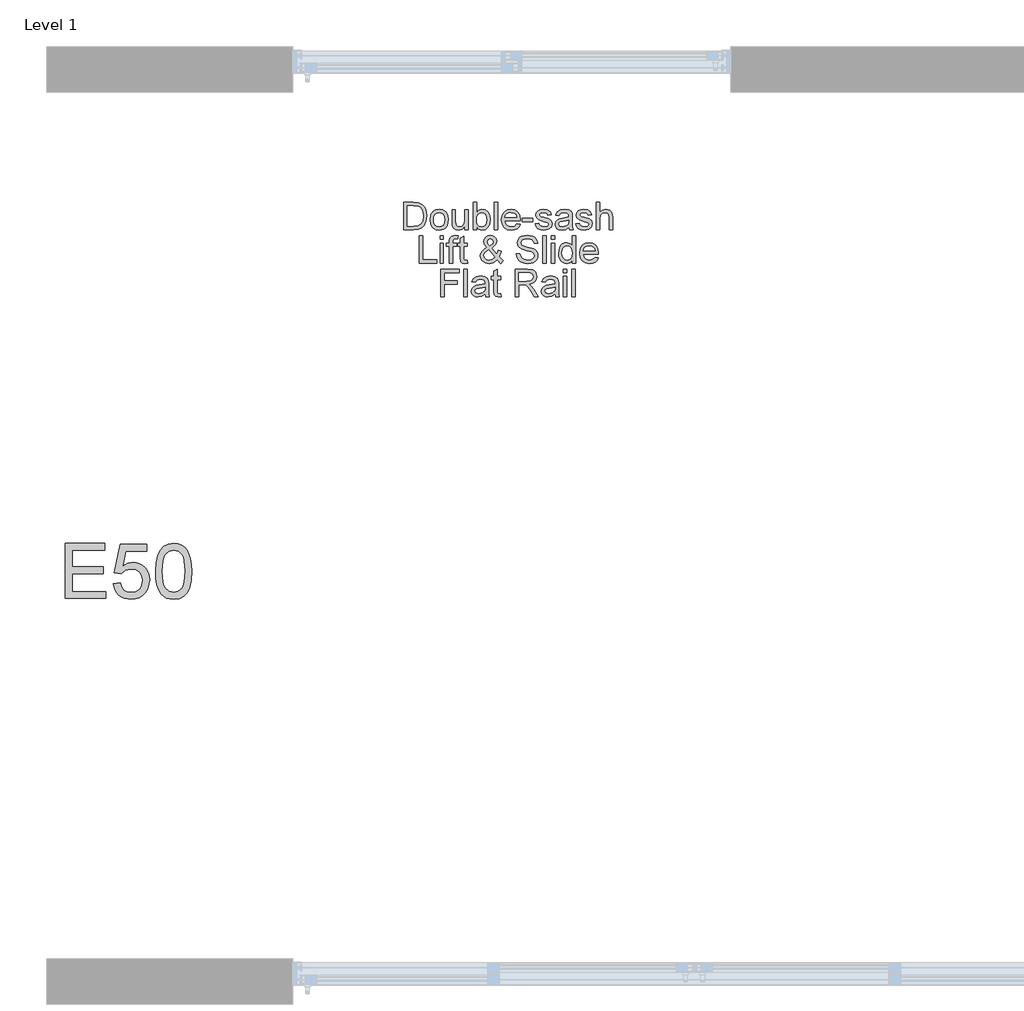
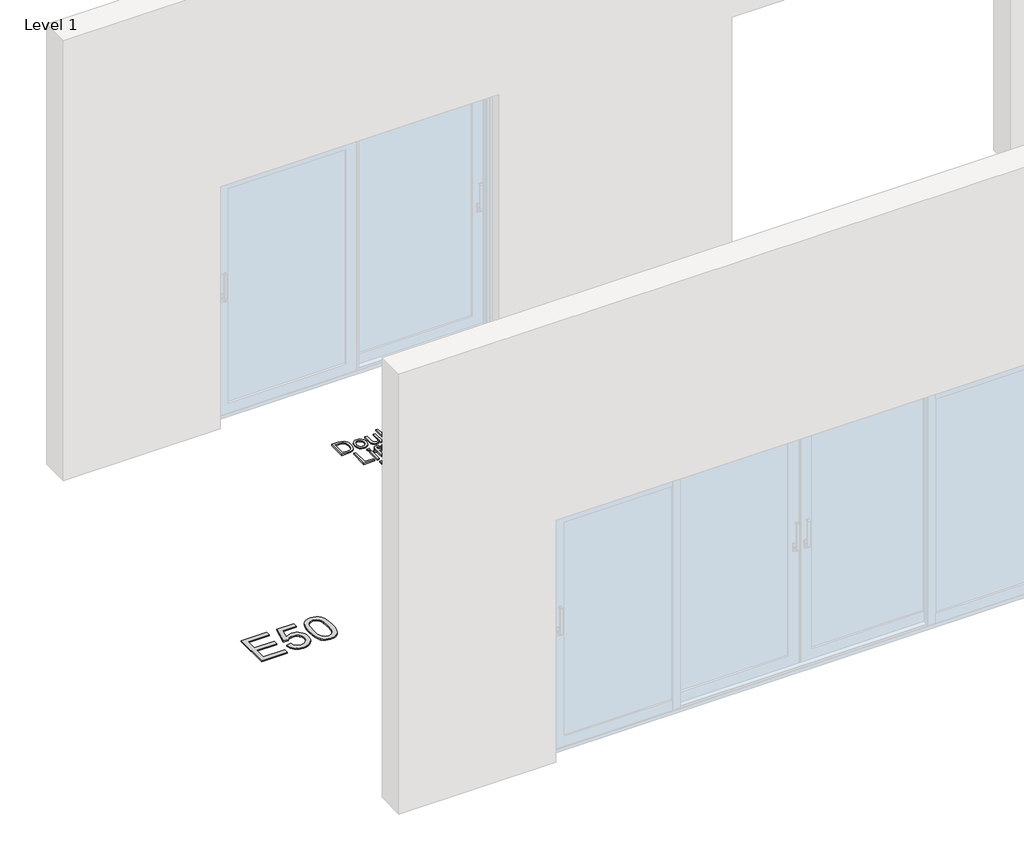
# One storey, part 3 of 11: 2 proxies.
"""IFC4 building model written with IfcOpenShell, lengths in millimetres."""

from ifc_helpers import new_model, si_unit, origin, origin_with_axes, place, context, project, spatial, polyline, outline, extrude, element, save

model = new_model("IFC4")

# Units and contexts
model_context = context("Model", 3, world=origin())
ifc_project = project(units=[si_unit("LENGTHUNIT", "METRE", prefix="MILLI")], contexts=[model_context])

# Site, building, storey
site = spatial("IfcSite", under=ifc_project)
building = spatial("IfcBuilding", under=site)
storey = spatial("IfcBuildingStorey", under=building, Name="Level 1", Elevation=0.0)

# Proxies
placement = place(None, origin())
element("IfcBuildingElementProxy", 1, Name="150mm Arial", ObjectType="150mm Arial", at=placement, inside=storey, context=model_context, shape_type="SweptSolid", body=[
    extrude(outline(polyline([(-6211.5990485, -897.6627533), (-6211.5990485, -746.9782881), (-6159.6173226, -746.9782881), (-6132.7251487, -749.1487919), (-6110.5786526, -759.9277343), (-6100.1583951, -771.4056526), (-6092.7363758, -785.679474), (-6088.2942007, -802.4732871), (-6086.8134757, -821.5111803), (-6090.8233895, -851.9166272), (-6101.1240853, -873.8607883), (-6114.8828719, -887.5276044), (-6132.8906956, -895.0875794), (-6157.115725, -897.6627533), (-6211.5990485, -897.6627533)]), holes=[polyline([(-6192.7634903, -878.8271952), (-6159.4333816, -878.8271952), (-6135.1899581, -876.1048684), (-6121.2104423, -868.4161347), (-6109.7509181, -849.7093353), (-6105.6490339, -821.2168747), (-6107.6585893, -800.6890594), (-6113.6872555, -785.5323212), (-6122.5945983, -775.1212607), (-6133.2401835, -768.8304786), (-6159.9484164, -765.8138463), (-6192.7634903, -765.8138463), (-6192.7634903, -878.8271952)])]), origin_with_axes(), (0.0, 0.0, 1.0), 10.0),
    extrude(outline(polyline([(-6067.9779176, -842.3333013), (-6063.9036245, -815.6526596), (-6051.6807452, -796.8998749), (-6036.5791893, -787.712022), (-6018.4977892, -784.6494044), (-5998.7103364, -788.3788081), (-5982.9052062, -799.5670193), (-5972.5447295, -817.3311212), (-5969.0912373, -840.7881969), (-5970.6179475, -859.8168931), (-5975.1980784, -874.3022466), (-5982.6982726, -885.150167), (-5992.9851728, -893.2665635), (-6005.2034536, -898.3295395), (-6018.4977892, -900.0171981), (-6038.5243653, -896.30159), (-6054.3111014, -885.1547655), (-6064.5612135, -867.0181831), (-6067.9779176, -842.3333013)]), holes=[polyline([(-6049.1423594, -842.2965131), (-6046.9626586, -859.343245), (-6040.4235561, -871.4879494), (-6030.5827127, -878.7582173), (-6018.4977892, -881.18164), (-6006.468048, -878.7444217), (-5996.6455987, -871.4327671), (-5990.1064962, -859.1271143), (-5987.9267954, -841.7079019), (-5990.1202918, -825.1578106), (-5996.700781, -813.1786531), (-6006.5370258, -805.9083852), (-6018.4977892, -803.4849626), (-6030.5827127, -805.8991882), (-6040.4235561, -813.141865), (-6046.9626586, -825.2589782), (-6049.1423594, -842.2965131)])]), origin_with_axes(), (0.0, 0.0, 1.0), 10.0),
    extrude(outline(polyline([(-5877.2678913, -897.6627533), (-5877.2678913, -878.6432542), (-5892.0199593, -894.6737121), (-5911.2601876, -900.0171981), (-5928.9737057, -896.2648018), (-5941.1873879, -886.8470227), (-5946.7975883, -872.9778715), (-5947.9012343, -855.4666885), (-5947.9012343, -787.0038492), (-5929.0656762, -787.0038492), (-5929.0656762, -846.6007324), (-5927.925242, -865.8041726), (-5920.4756316, -877.0797557), (-5906.4409335, -881.18164), (-5890.7139782, -876.9877852), (-5880.3213118, -865.5650493), (-5877.2678913, -844.5773814), (-5877.2678913, -787.0038492), (-5858.4323331, -787.0038492), (-5858.4323331, -897.6627533), (-5877.2678913, -897.6627533)])), origin_with_axes(), (0.0, 0.0, 1.0), 10.0),
    extrude(outline(polyline([(-5813.6978825, -897.6627533), (-5832.5334406, -897.6627533), (-5832.5334406, -746.9782881), (-5813.6978825, -746.9782881), (-5813.6978825, -802.8595632), (-5800.509313, -789.2019441), (-5784.1201701, -784.6494044), (-5765.2478237, -788.7512887), (-5750.6061203, -800.2843892), (-5741.6114055, -818.2186365), (-5738.3556499, -840.6778323), (-5741.7263687, -865.8225667), (-5751.838525, -884.5293661), (-5766.677965, -896.1452401), (-5784.2305347, -900.0171981), (-5800.9783625, -895.0232), (-5813.6978825, -880.0412058), (-5813.6978825, -897.6627533)]), holes=[polyline([(-5813.6978825, -841.5607491), (-5812.4102955, -857.2693103), (-5808.5475346, -867.9010999), (-5798.6791, -877.861505), (-5785.8492155, -881.18164), (-5774.9783025, -878.7352247), (-5765.6892821, -871.3959789), (-5759.3157266, -859.2098878), (-5757.191208, -842.2229367), (-5759.2283546, -824.9876652), (-5765.3397942, -812.9395299), (-5774.3391075, -805.8486044), (-5785.0398751, -803.4849626), (-5795.910788, -805.9313778), (-5805.1998084, -813.2706236), (-5811.573364, -825.2359855), (-5813.6978825, -841.5607491)])]), origin_with_axes(), (0.0, 0.0, 1.0), 10.0),
    extrude(outline(polyline([(-5717.165647, -897.6627533), (-5717.165647, -746.9782881), (-5698.3300888, -746.9782881), (-5698.3300888, -897.6627533), (-5717.165647, -897.6627533)])), origin_with_axes(), (0.0, 0.0, 1.0), 10.0),
    extrude(outline(polyline([(-5592.6008034, -864.7005266), (-5574.1331272, -867.0549713), (-5580.7871928, -880.9701078), (-5591.4051869, -891.3719712), (-5605.7479862, -897.8558914), (-5623.5764674, -900.0171981), (-5645.6769782, -896.2877944), (-5662.6823235, -885.0995832), (-5673.5256453, -867.1791315), (-5677.1400859, -843.2530063), (-5673.4888571, -818.5221391), (-5662.5351707, -800.0268718), (-5645.7597517, -788.4937713), (-5624.6433252, -784.6494044), (-5604.1844877, -788.4845742), (-5587.8367316, -799.9900836), (-5577.1175699, -818.4485627), (-5573.544516, -843.1426417), (-5573.6548806, -848.2194132), (-5658.3045277, -848.2194132), (-5655.0441735, -862.3184907), (-5647.470403, -872.6835659), (-5636.5397092, -879.0571214), (-5623.2085854, -881.18164), (-5604.7409092, -877.2453026), (-5592.6008034, -864.7005266)]), holes=[polyline([(-5658.3045277, -829.383855), (-5592.3800742, -829.383855), (-5594.927657, -819.4326471), (-5599.9216551, -812.3141305), (-5610.9029326, -805.6922545), (-5624.7169016, -803.4849626), (-5637.4134289, -805.2461976), (-5647.9118614, -810.5299028), (-5655.2097204, -818.765861), (-5658.3045277, -829.383855)])]), origin_with_axes(), (0.0, 0.0, 1.0), 10.0),
    extrude(outline(polyline([(-5564.126737, -852.9283027), (-5564.126737, -834.0927446), (-5505.2656177, -834.0927446), (-5505.2656177, -852.9283027), (-5564.126737, -852.9283027)])), origin_with_axes(), (0.0, 0.0, 1.0), 10.0),
    extrude(outline(polyline([(-5491.1389491, -864.7005266), (-5472.303391, -862.3460818), (-5469.3327439, -870.4026975), (-5463.5845877, -876.3255976), (-5443.6085953, -881.18164), (-5424.4051552, -876.7302678), (-5418.1511613, -866.2824192), (-5419.7238568, -861.4815591), (-5424.4419434, -857.8211333), (-5443.8293245, -852.4500561), (-5472.1930264, -843.2346122), (-5484.5722555, -832.4740638), (-5488.7845044, -817.2805374), (-5485.39999, -803.2458393), (-5476.1661519, -792.5220791), (-5464.191593, -786.9486669), (-5447.9863911, -784.6494044), (-5425.0673428, -788.3466185), (-5410.4992158, -798.3530087), (-5404.0244927, -815.2571864), (-5422.8600508, -817.6116312), (-5429.9417792, -807.2189648), (-5446.5148631, -803.4849626), (-5464.5410809, -807.0534179), (-5469.9489462, -815.367551), (-5467.704866, -820.8489927), (-5460.6783199, -825.0060593), (-5444.4547239, -829.015973), (-5416.808392, -837.8819291), (-5403.9693104, -847.9251076), (-5399.3156031, -864.2958564), (-5404.7786508, -882.3220741), (-5420.5423942, -895.4002791), (-5443.8661127, -900.0171981), (-5462.8580207, -897.791512), (-5476.7179749, -891.1144538), (-5485.9702071, -880.0595999), (-5491.1389491, -864.7005266)])), origin_with_axes(), (0.0, 0.0, 1.0), 10.0),
    extrude(outline(polyline([(-5307.4922571, -883.5360847), (-5325.7575982, -896.30159), (-5345.9359256, -900.0171981), (-5361.6766765, -897.782315), (-5373.287952, -891.0776656), (-5380.4478553, -880.8965314), (-5382.8344897, -868.2321937), (-5379.2292462, -853.3329729), (-5369.7562848, -842.5172423), (-5356.5677153, -836.3368247), (-5340.2705429, -833.5041334), (-5307.6026217, -827.0294103), (-5307.4922571, -822.8355555), (-5308.7890412, -814.4294519), (-5312.6793933, -808.9296161), (-5321.3798024, -804.846126), (-5333.5015142, -803.4849626), (-5352.5578015, -807.1086002), (-5361.6444868, -819.966076), (-5380.480045, -817.6116312), (-5372.3314588, -799.2175314), (-5355.9239218, -788.438589), (-5331.073493, -784.6494044), (-5308.2464152, -787.9971306), (-5295.3521513, -796.4032342), (-5289.576404, -809.1871335), (-5288.656699, -825.6682469), (-5288.656699, -849.10233), (-5287.7002058, -881.8254334), (-5283.9478094, -897.6627533), (-5302.7833676, -897.6627533), (-5307.4922571, -883.5360847)]), holes=[polyline([(-5307.4922571, -845.8649684), (-5337.8793099, -851.6407157), (-5354.0845118, -854.6941363), (-5361.4237576, -859.6605432), (-5363.9989316, -866.9078185), (-5358.3887312, -877.0981498), (-5341.9260119, -881.18164), (-5322.8697245, -876.6750855), (-5310.5824659, -865.7673844), (-5307.6026217, -851.1992574), (-5307.4922571, -845.8649684)])]), origin_with_axes(), (0.0, 0.0, 1.0), 10.0),
    extrude(outline(polyline([(-5269.8211408, -864.7005266), (-5250.9855827, -862.3460818), (-5248.0149356, -870.4026975), (-5242.2667794, -876.3255976), (-5222.290787, -881.18164), (-5203.0873469, -876.7302678), (-5196.833353, -866.2824192), (-5198.4060485, -861.4815591), (-5203.1241351, -857.8211333), (-5222.5115162, -852.4500561), (-5250.8752181, -843.2346122), (-5263.2544472, -832.4740638), (-5267.4666961, -817.2805374), (-5264.0821817, -803.2458393), (-5254.8483436, -792.5220791), (-5242.8737847, -786.9486669), (-5226.6685828, -784.6494044), (-5203.7495345, -788.3466185), (-5189.1814075, -798.3530087), (-5182.7066844, -815.2571864), (-5201.5422425, -817.6116312), (-5208.6239709, -807.2189648), (-5225.1970548, -803.4849626), (-5243.2232726, -807.0534179), (-5248.6311379, -815.367551), (-5246.3870577, -820.8489927), (-5239.3605116, -825.0060593), (-5223.1369156, -829.015973), (-5195.4905837, -837.8819291), (-5182.6515021, -847.9251076), (-5177.9977948, -864.2958564), (-5183.4608425, -882.3220741), (-5199.2245859, -895.4002791), (-5222.5483044, -900.0171981), (-5241.5402124, -897.791512), (-5255.4001666, -891.1144538), (-5264.6523988, -880.0595999), (-5269.8211408, -864.7005266)])), origin_with_axes(), (0.0, 0.0, 1.0), 10.0),
    extrude(outline(polyline([(-5156.8077919, -897.6627533), (-5156.8077919, -746.9782881), (-5137.9722338, -746.9782881), (-5137.9722338, -802.3813166), (-5123.2845451, -789.0823825), (-5105.193948, -784.6494044), (-5084.0407333, -789.4870527), (-5071.2016516, -802.8595632), (-5067.3388907, -827.6180215), (-5067.3388907, -897.6627533), (-5086.1744488, -897.6627533), (-5086.1744488, -829.567796), (-5087.673568, -817.7771781), (-5092.1709254, -809.7021683), (-5099.4182007, -805.039264), (-5109.1670735, -803.4849626), (-5124.5997232, -807.6788173), (-5134.9004191, -819.046371), (-5137.9722338, -838.8752105), (-5137.9722338, -897.6627533), (-5156.8077919, -897.6627533)])), origin_with_axes(), (0.0, 0.0, 1.0), 10.0),
    extrude(outline(polyline([(-6126.8390368, -1080.6249801), (-6126.8390368, -929.9405149), (-6108.0034786, -929.9405149), (-6108.0034786, -1061.789422), (-6032.661246, -1061.789422), (-6032.661246, -1080.6249801), (-6126.8390368, -1080.6249801)])), origin_with_axes(), (0.0, 0.0, 1.0), 10.0),
    extrude(outline(polyline([(-6013.8256879, -948.776073), (-6013.8256879, -929.9405149), (-5994.9901297, -929.9405149), (-5994.9901297, -948.776073), (-6013.8256879, -948.776073)])), origin_with_axes(), (0.0, 0.0, 1.0), 10.0),
    extrude(outline(polyline([(-6013.8256879, -1080.6249801), (-6013.8256879, -969.966076), (-5994.9901297, -969.966076), (-5994.9901297, -1080.6249801), (-6013.8256879, -1080.6249801)])), origin_with_axes(), (0.0, 0.0, 1.0), 10.0),
    extrude(outline(polyline([(-5962.0279029, -1080.6249801), (-5962.0279029, -988.8016341), (-5978.5090163, -988.8016341), (-5978.5090163, -969.966076), (-5962.0279029, -969.966076), (-5962.0279029, -958.8192515), (-5960.0413402, -943.1106903), (-5950.4028319, -931.8902895), (-5931.4201209, -927.5860701), (-5914.2400318, -929.6462093), (-5916.9991467, -947.3045451), (-5927.8516656, -946.4216283), (-5939.7158599, -949.5486252), (-5943.1923448, -961.2104845), (-5943.1923448, -969.966076), (-5922.0023419, -969.966076), (-5922.0023419, -988.8016341), (-5943.1923448, -988.8016341), (-5943.1923448, -1080.6249801), (-5962.0279029, -1080.6249801)])), origin_with_axes(), (0.0, 0.0, 1.0), 10.0),
    extrude(outline(polyline([(-5865.4956674, -1064.9164189), (-5863.1412226, -1081.1768031), (-5877.2311031, -1082.9794249), (-5893.0132407, -1079.8524279), (-5900.8859153, -1071.6486594), (-5903.1667837, -1050.2747155), (-5903.1667837, -988.8016341), (-5917.2934523, -988.8016341), (-5917.2934523, -969.966076), (-5903.1667837, -969.966076), (-5903.1667837, -943.0739021), (-5884.3312256, -932.0006541), (-5884.3312256, -969.966076), (-5865.4956674, -969.966076), (-5865.4956674, -988.8016341), (-5884.3312256, -988.8016341), (-5884.3312256, -1049.7228925), (-5883.3379442, -1059.4349772), (-5880.1189767, -1062.8746738), (-5873.6994359, -1064.1438667), (-5865.4956674, -1064.9164189)])), origin_with_axes(), (0.0, 0.0, 1.0), 10.0),
    extrude(outline(polyline([(-5701.3835094, -1062.0101512), (-5721.3595017, -1077.7371064), (-5744.7200084, -1082.9794249), (-5765.5053411, -1079.0982698), (-5781.5082079, -1067.4548047), (-5789.7579617, -1054.054703), (-5792.5078796, -1039.1646793), (-5790.2959891, -1025.9669127), (-5783.6603176, -1014.1119154), (-5772.6284563, -1003.6088844), (-5757.2279962, -994.4670168), (-5770.3797776, -975.4107295), (-5773.6723214, -961.2840609), (-5771.0787533, -948.5645409), (-5763.2980492, -937.6292486), (-5751.5902047, -930.0968647), (-5737.2152157, -927.5860701), (-5723.5392025, -929.9865001), (-5712.6039102, -937.1877902), (-5705.4302113, -947.7552005), (-5703.0389783, -960.2539913), (-5704.8094104, -970.7478252), (-5710.1207067, -980.4507128), (-5731.365892, -997.4836492), (-5704.1058361, -1031.4391574), (-5695.975644, -1010.5802482), (-5677.1400859, -1014.6637384), (-5690.4574141, -1045.6761906), (-5667.7223068, -1068.4848743), (-5681.8489754, -1082.9794249), (-5701.3835094, -1062.0101512)]), holes=[polyline([(-5740.8940356, -985.6010608), (-5725.4062036, -973.9208074), (-5721.8745365, -962.8291653), (-5726.5282437, -951.0017591), (-5738.1717089, -946.4216283), (-5750.0726914, -950.9649709), (-5754.8367633, -962.0566131), (-5753.2180825, -968.9544005), (-5748.3252519, -976.6247401), (-5740.8940356, -985.6010608)]), polyline([(-5714.0018618, -1048.4353055), (-5747.6262762, -1006.4599699), (-5768.3196384, -1022.2421075), (-5773.6723214, -1036.6630817), (-5771.8421085, -1045.5474319), (-5766.3514697, -1054.7628758), (-5757.5039077, -1061.798619), (-5745.6029252, -1064.1438667), (-5728.2940773, -1059.766071), (-5714.0018618, -1048.4353055)])]), origin_with_axes(), (0.0, 0.0, 1.0), 10.0),
    extrude(outline(polyline([(-5594.734519, -1028.8271952), (-5575.8989608, -1028.8271952), (-5569.8289079, -1047.6811474), (-5555.0032635, -1059.6005241), (-5532.415309, -1064.1438667), (-5512.7336222, -1060.7041701), (-5500.0232993, -1051.2496028), (-5495.8478387, -1038.6128563), (-5498.9748356, -1026.8590265), (-5511.777129, -1018.3057701), (-5539.2027318, -1011.1136771), (-5568.7252619, -1001.8246567), (-5584.7465228, -987.8083527), (-5590.0256294, -969.0831592), (-5588.3931531, -958.0512978), (-5583.495724, -947.7643976), (-5575.4621009, -939.0455943), (-5564.4210426, -932.7180239), (-5536.4987991, -927.5860701), (-5506.7003575, -932.9571472), (-5495.2776216, -939.5882202), (-5486.8347298, -948.7392848), (-5481.4912438, -959.840124), (-5479.3667253, -972.3205207), (-5498.2022834, -972.3205207), (-5501.6603742, -961.0817258), (-5508.8708613, -952.9699278), (-5520.1372474, -948.0587031), (-5535.7630351, -946.4216283), (-5551.7567049, -948.040309), (-5562.7287854, -952.8963514), (-5569.0747498, -960.0424591), (-5571.1900713, -968.5313362), (-5569.6909521, -975.7694144), (-5565.1935947, -981.591147), (-5534.43866, -992.1125721), (-5501.1085512, -1001.5671393), (-5490.3709955, -1008.4005474), (-5482.8799983, -1016.8342421), (-5478.47921, -1026.7762531), (-5477.0122805, -1038.1346097), (-5478.6999392, -1049.7458851), (-5483.7629151, -1060.6673819), (-5491.9942748, -1070.0667668), (-5503.1870845, -1077.1117071), (-5516.646967, -1081.5124954), (-5531.679545, -1082.9794249), (-5550.1334256, -1081.3975323), (-5565.3223534, -1076.6518546), (-5577.4210726, -1068.7239976), (-5586.6043269, -1057.5955672), (-5592.4996358, -1044.0391157), (-5594.734519, -1028.8271952)])), origin_with_axes(), (0.0, 0.0, 1.0), 10.0),
    extrude(outline(polyline([(-5451.113388, -1080.6249801), (-5451.113388, -929.9405149), (-5432.2778299, -929.9405149), (-5432.2778299, -1080.6249801), (-5451.113388, -1080.6249801)])), origin_with_axes(), (0.0, 0.0, 1.0), 10.0),
    extrude(outline(polyline([(-5404.0244927, -948.776073), (-5404.0244927, -929.9405149), (-5385.1889345, -929.9405149), (-5385.1889345, -948.776073), (-5404.0244927, -948.776073)])), origin_with_axes(), (0.0, 0.0, 1.0), 10.0),
    extrude(outline(polyline([(-5404.0244927, -1080.6249801), (-5404.0244927, -969.966076), (-5385.1889345, -969.966076), (-5385.1889345, -1080.6249801), (-5404.0244927, -1080.6249801)])), origin_with_axes(), (0.0, 0.0, 1.0), 10.0),
    extrude(outline(polyline([(-5288.656699, -1080.6249801), (-5288.656699, -1062.8562797), (-5301.1187016, -1077.9486386), (-5318.344776, -1082.9794249), (-5330.52167, -1081.158409), (-5341.6684945, -1075.6953614), (-5351.1046677, -1066.9719596), (-5358.1496079, -1055.3698811), (-5362.5366007, -1041.3581756), (-5363.9989316, -1025.4058926), (-5358.6094604, -995.42351), (-5351.8772198, -983.5317245), (-5342.4594408, -974.7853301), (-5331.0688945, -969.4050559), (-5318.4183524, -967.6116312), (-5301.0543222, -972.743585), (-5288.656699, -986.0793073), (-5288.656699, -929.9405149), (-5269.8211408, -929.9405149), (-5269.8211408, -1080.6249801), (-5288.656699, -1080.6249801)]), holes=[polyline([(-5345.1633734, -1025.3323162), (-5343.0388549, -1042.3698511), (-5336.6652993, -1054.4869644), (-5327.4038701, -1061.7296411), (-5316.6157306, -1064.1438667), (-5305.8321896, -1061.8400057), (-5296.8052852, -1054.9284227), (-5290.6938455, -1043.2803591), (-5288.656699, -1026.767056), (-5290.7306337, -1008.7132471), (-5296.952438, -996.1960622), (-5306.2092687, -988.8844076), (-5317.3882828, -986.4471893), (-5328.2867869, -988.7878385), (-5337.2171223, -995.8097861), (-5343.1768107, -1007.871717), (-5345.1633734, -1025.3323162)])]), origin_with_axes(), (0.0, 0.0, 1.0), 10.0),
    extrude(outline(polyline([(-5164.0918554, -1047.6627533), (-5145.6241792, -1050.0171981), (-5152.2782448, -1063.9323346), (-5162.8962389, -1074.334198), (-5177.2390382, -1080.8181182), (-5195.0675194, -1082.9794249), (-5217.1680303, -1079.2500212), (-5234.1733755, -1068.06181), (-5245.0166973, -1050.1413583), (-5248.6311379, -1026.215233), (-5244.9799091, -1001.4843659), (-5234.0262227, -982.9890986), (-5217.2508037, -971.455998), (-5196.1343772, -967.6116312), (-5175.6755397, -971.446801), (-5159.3277836, -982.9523104), (-5148.6086219, -1001.4107895), (-5145.0355681, -1026.1048684), (-5145.1459327, -1031.18164), (-5229.7955797, -1031.18164), (-5226.5352256, -1045.2807174), (-5218.961455, -1055.6457926), (-5208.0307612, -1062.0193482), (-5194.6996374, -1064.1438667), (-5176.2319612, -1060.2075294), (-5164.0918554, -1047.6627533)]), holes=[polyline([(-5229.7955797, -1012.3460818), (-5163.8711262, -1012.3460818), (-5166.418709, -1002.3948738), (-5171.4127071, -995.2763572), (-5182.3939847, -988.6544813), (-5196.2079536, -986.4471893), (-5208.9044809, -988.2084244), (-5219.4029134, -993.4921296), (-5226.7007725, -1001.7280877), (-5229.7955797, -1012.3460818)])]), origin_with_axes(), (0.0, 0.0, 1.0), 10.0),
    extrude(outline(polyline([(-6009.1167983, -1263.5872069), (-6009.1167983, -1112.9027417), (-5907.8756733, -1112.9027417), (-5907.8756733, -1131.7382998), (-5990.2812402, -1131.7382998), (-5990.2812402, -1176.4727504), (-5919.6478971, -1176.4727504), (-5919.6478971, -1195.3083086), (-5990.2812402, -1195.3083086), (-5990.2812402, -1263.5872069), (-6009.1167983, -1263.5872069)])), origin_with_axes(), (0.0, 0.0, 1.0), 10.0),
    extrude(outline(polyline([(-5884.3312256, -1263.5872069), (-5884.3312256, -1112.9027417), (-5865.4956674, -1112.9027417), (-5865.4956674, -1263.5872069), (-5884.3312256, -1263.5872069)])), origin_with_axes(), (0.0, 0.0, 1.0), 10.0),
    extrude(outline(polyline([(-5766.6089871, -1249.4605383), (-5784.8743282, -1262.2260435), (-5805.0526556, -1265.9416516), (-5820.7934065, -1263.7067685), (-5832.4046819, -1257.0021192), (-5839.5645853, -1246.8209849), (-5841.9512197, -1234.1566473), (-5838.3459762, -1219.2574265), (-5828.8730148, -1208.4416958), (-5815.6844453, -1202.2612783), (-5799.3872729, -1199.4285869), (-5766.7193517, -1192.9538638), (-5766.6089871, -1188.7600091), (-5767.9057711, -1180.3539055), (-5771.7961232, -1174.8540696), (-5780.4965324, -1170.7705795), (-5792.6182442, -1169.4094161), (-5811.6745315, -1173.0330538), (-5820.7612168, -1185.8905295), (-5839.596775, -1183.5360847), (-5831.4481888, -1165.141985), (-5815.0406518, -1154.3630425), (-5790.190223, -1150.573858), (-5767.3631452, -1153.9215841), (-5754.4688813, -1162.3276877), (-5748.6931339, -1175.111587), (-5747.773429, -1191.5927004), (-5747.773429, -1215.0267835), (-5746.8169358, -1247.749887), (-5743.0645394, -1263.5872069), (-5761.9000976, -1263.5872069), (-5766.6089871, -1249.4605383)]), holes=[polyline([(-5766.6089871, -1211.789422), (-5796.9960399, -1217.5651693), (-5813.2012418, -1220.6185898), (-5820.5404876, -1225.5849968), (-5823.1156616, -1232.8322721), (-5817.5054611, -1243.0226033), (-5801.0427419, -1247.1060935), (-5781.9864545, -1242.5995391), (-5769.6991959, -1231.6918379), (-5766.7193517, -1217.1237109), (-5766.6089871, -1211.789422)])]), origin_with_axes(), (0.0, 0.0, 1.0), 10.0),
    extrude(outline(polyline([(-5681.8489754, -1247.8786457), (-5679.4945307, -1264.1390299), (-5693.5844111, -1265.9416516), (-5709.3665487, -1262.8146547), (-5717.2392234, -1254.6108862), (-5719.5200917, -1233.2369423), (-5719.5200917, -1171.7638609), (-5733.6467603, -1171.7638609), (-5733.6467603, -1152.9283027), (-5719.5200917, -1152.9283027), (-5719.5200917, -1126.0361289), (-5700.6845336, -1114.9628808), (-5700.6845336, -1152.9283027), (-5681.8489754, -1152.9283027), (-5681.8489754, -1171.7638609), (-5700.6845336, -1171.7638609), (-5700.6845336, -1232.6851193), (-5699.6912522, -1242.397204), (-5696.4722847, -1245.8369006), (-5690.0527439, -1247.1060935), (-5681.8489754, -1247.8786457)])), origin_with_axes(), (0.0, 0.0, 1.0), 10.0),
    extrude(outline(polyline([(-5601.7978533, -1263.5872069), (-5601.7978533, -1112.9027417), (-5536.8666811, -1112.9027417), (-5506.7187516, -1116.9678377), (-5497.4389283, -1122.5964322), (-5490.2376382, -1131.3520237), (-5485.6161207, -1142.2091411), (-5484.0756148, -1154.1423133), (-5486.6277962, -1168.9863518), (-5494.2843402, -1181.2920046), (-5507.2751731, -1190.3143105), (-5525.8302213, -1195.3083086), (-5515.1248552, -1203.3649243), (-5499.8577524, -1222.7523054), (-5474.7314121, -1263.5872069), (-5496.6203908, -1263.5872069), (-5516.2285012, -1232.3540255), (-5530.391958, -1211.6790574), (-5540.343166, -1201.9117904), (-5549.3010926, -1198.3249409), (-5560.2271878, -1197.6627533), (-5582.9622951, -1197.6627533), (-5582.9622951, -1263.5872069), (-5601.7978533, -1263.5872069)]), holes=[polyline([(-5582.9622951, -1178.8271952), (-5540.8030185, -1178.8271952), (-5519.3003159, -1176.1600507), (-5507.0866336, -1167.6251884), (-5502.911173, -1154.8412891), (-5504.9023343, -1145.6534363), (-5510.8758182, -1138.2498111), (-5521.1535214, -1133.3661776), (-5536.0573407, -1131.7382998), (-5582.9622951, -1131.7382998), (-5582.9622951, -1178.8271952)])]), origin_with_axes(), (0.0, 0.0, 1.0), 10.0),
    extrude(outline(polyline([(-5382.8344897, -1249.4605383), (-5401.0998308, -1262.2260435), (-5421.2781582, -1265.9416516), (-5437.0189091, -1263.7067685), (-5448.6301846, -1257.0021192), (-5455.7900879, -1246.8209849), (-5458.1767224, -1234.1566473), (-5454.5714788, -1219.2574265), (-5445.0985174, -1208.4416958), (-5431.9099479, -1202.2612783), (-5415.6127755, -1199.4285869), (-5382.9448543, -1192.9538638), (-5382.8344897, -1188.7600091), (-5384.1312738, -1180.3539055), (-5388.0216259, -1174.8540696), (-5396.7220351, -1170.7705795), (-5408.8437468, -1169.4094161), (-5427.9000341, -1173.0330538), (-5436.9867194, -1185.8905295), (-5455.8222776, -1183.5360847), (-5447.6736914, -1165.141985), (-5431.2661544, -1154.3630425), (-5406.4157256, -1150.573858), (-5383.5886478, -1153.9215841), (-5370.6943839, -1162.3276877), (-5364.9186366, -1175.111587), (-5363.9989316, -1191.5927004), (-5363.9989316, -1215.0267835), (-5363.0424384, -1247.749887), (-5359.290042, -1263.5872069), (-5378.1256002, -1263.5872069), (-5382.8344897, -1249.4605383)]), holes=[polyline([(-5382.8344897, -1211.789422), (-5413.2215425, -1217.5651693), (-5429.4267444, -1220.6185898), (-5436.7659902, -1225.5849968), (-5439.3411642, -1232.8322721), (-5433.7309638, -1243.0226033), (-5417.2682445, -1247.1060935), (-5398.2119571, -1242.5995391), (-5385.9246985, -1231.6918379), (-5382.9448543, -1217.1237109), (-5382.8344897, -1211.789422)])]), origin_with_axes(), (0.0, 0.0, 1.0), 10.0),
    extrude(outline(polyline([(-5338.1000391, -1131.7382998), (-5338.1000391, -1112.9027417), (-5319.264481, -1112.9027417), (-5319.264481, -1131.7382998), (-5338.1000391, -1131.7382998)])), origin_with_axes(), (0.0, 0.0, 1.0), 10.0),
    extrude(outline(polyline([(-5338.1000391, -1263.5872069), (-5338.1000391, -1152.9283027), (-5319.264481, -1152.9283027), (-5319.264481, -1263.5872069), (-5338.1000391, -1263.5872069)])), origin_with_axes(), (0.0, 0.0, 1.0), 10.0),
    extrude(outline(polyline([(-5291.0111437, -1263.5872069), (-5291.0111437, -1112.9027417), (-5272.1755856, -1112.9027417), (-5272.1755856, -1263.5872069), (-5291.0111437, -1263.5872069)])), origin_with_axes(), (0.0, 0.0, 1.0), 10.0),
])
element("IfcBuildingElementProxy", 2, Name="300mm Arial", ObjectType="300mm Arial", at=placement, inside=storey, context=model_context, shape_type="SweptSolid", body=[
    extrude(outline(polyline([(-8067.9216394, -2918.7131538), (-8067.9216394, -2617.3442234), (-7851.3127207, -2617.3442234), (-7851.3127207, -2655.0153397), (-8030.2505231, -2655.0153397), (-8030.2505231, -2744.4842409), (-7860.7304997, -2744.4842409), (-7860.7304997, -2782.1553572), (-8030.2505231, -2782.1553572), (-8030.2505231, -2881.0420375), (-7846.6038311, -2881.0420375), (-7846.6038311, -2918.7131538), (-8067.9216394, -2918.7131538)])), origin_with_axes(), (0.0, 0.0, 1.0), 10.0),
    extrude(outline(polyline([(-7804.2238253, -2838.6620317), (-7766.552709, -2833.9531422), (-7759.6365275, -2856.5686878), (-7747.569998, -2872.7646926), (-7730.408303, -2882.5043685), (-7708.2066245, -2885.7509271), (-7681.2040861, -2881.2351756), (-7660.9705764, -2867.6879211), (-7648.3338298, -2846.6726621), (-7644.121581, -2819.7528971), (-7648.0671154, -2794.4058277), (-7659.9037186, -2775.0184465), (-7679.7233611, -2762.7127938), (-7707.6180134, -2758.6109095), (-7725.8925515, -2760.2479844), (-7740.6906047, -2765.1592091), (-7761.8438194, -2782.1553572), (-7799.5149357, -2777.4464677), (-7766.552709, -2622.0531129), (-7620.5771333, -2622.0531129), (-7620.5771333, -2659.7242292), (-7736.0920798, -2659.7242292), (-7752.2053112, -2742.7184073), (-7725.2947432, -2726.3844468), (-7697.0965883, -2720.9397932), (-7678.750773, -2722.6274519), (-7661.8994784, -2727.6904278), (-7646.5427044, -2736.1287211), (-7632.6804509, -2747.9423317), (-7621.2048319, -2762.4092911), (-7613.0079612, -2778.8076311), (-7608.0898388, -2797.1373515), (-7606.4504647, -2817.3984524), (-7612.3549707, -2855.0695687), (-7619.7356032, -2871.8633818), (-7630.0684888, -2887.2960315), (-7645.7218677, -2903.1011617), (-7663.9872087, -2914.3905404), (-7684.8645119, -2921.1641676), (-7708.3537773, -2923.4220434), (-7745.353509, -2917.6187049), (-7761.0321798, -2910.3645318), (-7774.8300539, -2900.2086895), (-7786.3102714, -2887.6570157), (-7795.0359725, -2873.2153481), (-7804.2238253, -2838.6620317)])), origin_with_axes(), (0.0, 0.0, 1.0), 10.0),
    extrude(outline(polyline([(-7573.4882379, -2770.4567098), (-7570.7199259, -2722.2181832), (-7562.4149899, -2683.7469235), (-7548.6562032, -2654.4543197), (-7529.5263395, -2633.7517604), (-7504.8874429, -2621.4461076), (-7474.6015576, -2617.3442234), (-7451.3882037, -2619.7722446), (-7430.602871, -2627.0563081), (-7413.2204467, -2638.9113054), (-7400.2158182, -2655.0521279), (-7390.3933689, -2675.3408199), (-7382.5574824, -2699.6394257), (-7377.4255286, -2730.4955281), (-7375.7148773, -2770.4567098), (-7378.4555982, -2818.4193249), (-7386.6777608, -2856.7986141), (-7400.3537739, -2886.1188091), (-7419.4560465, -2906.9041418), (-7444.1501255, -2919.292568), (-7474.6015576, -2923.4220434), (-7495.3501021, -2921.6286187), (-7513.7442019, -2916.2483445), (-7529.7838569, -2907.2812208), (-7543.4690671, -2894.7272478), (-7556.6024543, -2872.0335272), (-7565.9834452, -2843.7571973), (-7571.6120397, -2809.8982582), (-7573.4882379, -2770.4567098)]), holes=[polyline([(-7535.8171216, -2770.3831334), (-7531.4025377, -2829.6397258), (-7525.8843077, -2849.9077244), (-7518.1587858, -2863.9355248), (-7498.4403109, -2880.2970765), (-7474.6015576, -2885.7509271), (-7450.7628043, -2880.2786824), (-7431.0443294, -2863.8619484), (-7423.3188075, -2849.8111554), (-7417.8005776, -2829.5477553), (-7413.3859936, -2770.3831334), (-7417.6534248, -2712.4601132), (-7422.9877137, -2692.2587932), (-7430.4557182, -2677.8975998), (-7450.1374049, -2660.7359047), (-7475.043016, -2655.0153397), (-7498.6242519, -2660.055323), (-7517.5701746, -2675.175273), (-7525.5532139, -2690.8102578), (-7531.2553849, -2711.8898962), (-7535.8171216, -2770.3831334)])]), origin_with_axes(), (0.0, 0.0, 1.0), 10.0),
])

save(model, "model.ifc")
